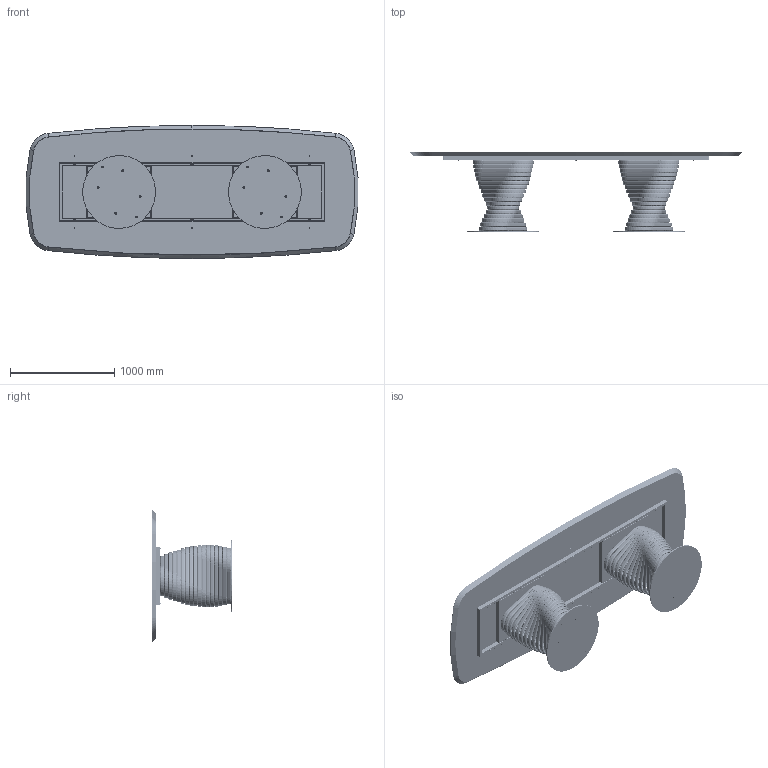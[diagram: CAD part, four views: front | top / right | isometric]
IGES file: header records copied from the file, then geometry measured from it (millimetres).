
Start section: SolidWorks IGES file using analytic representation for surfaces
Global section: file name: Y:\eforma\TECNICO\SOLIDWORKS\E-FORMA\1-TAVOLI\ROTOLO\02 parts\RO45W.IGS; native system: SolidWorks 2022; preprocessor: SolidWorks 2022; author: eforma.tech; date: 240807.152206; units: millimetre
Bounding box: 3190.14 x 770 x 1280 mm (x, y, z)
Volume: 163311185.9 mm3; surface area: 22310521.4 mm2
Topology: 182 solids, 182 shells, 3083 faces, 7252 edges, 4469 vertices
Faces by surface type: revolution 1853, plane 1230
